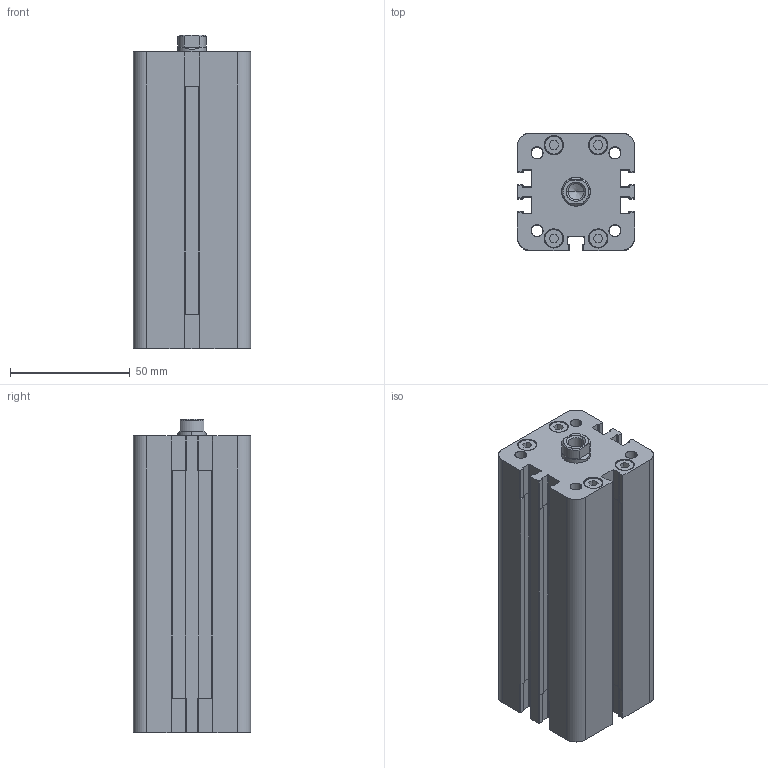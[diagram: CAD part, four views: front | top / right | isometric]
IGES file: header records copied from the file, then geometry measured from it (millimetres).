
Start section: SolidWorks IGES file using analytic representation for surfaces
Global section: file name: K:\Disegni Esecutivi\Cilindri\2_DISEGNI_cilindri_in_produzione\CILINDRO_ISO_21287\seconda versione cilindro 21287\2_CIL32\COMPLESSIVI _W_32\3D_W32_pieni\WF32_pieni\WF0320080A.igs; native system: SolidWorks 2011; preprocessor: SolidWorks 2011; author: Cad01; date: 120630.083536; units: millimetre
Bounding box: 49 x 49 x 131 mm (x, y, z)
Surface area: 46951.1 mm2 (no closed solid volume)
Topology: 0 solids, 0 shells, 395 faces, 4501 edges, 4499 vertices
Faces by surface type: bspline 206, revolution 189
